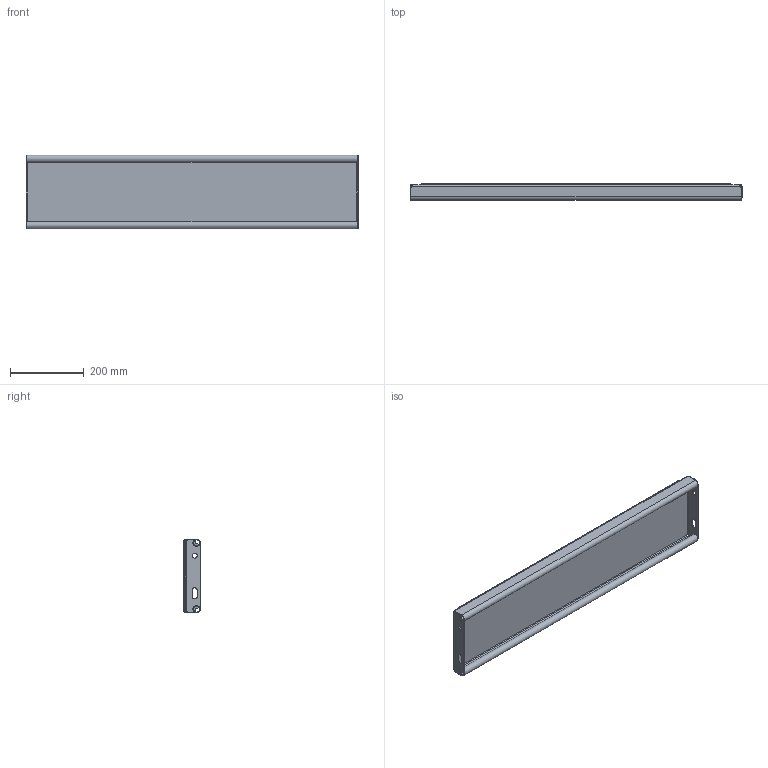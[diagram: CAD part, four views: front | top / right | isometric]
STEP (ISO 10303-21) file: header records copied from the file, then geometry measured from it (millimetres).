
FILE_DESCRIPTION (( 'STEP AP214' ), '1' );
FILE_NAME ('OPTIMO-Tread-Achil-O2-900x200x45x2-st240-F100160100-plain.STEP', '2021-03-15T10:26:46', ( '' ), ( '' ), 'SwSTEP 2.0', 'SolidWorks 2021', '' );
FILE_SCHEMA (( 'AUTOMOTIVE_DESIGN' ));
Length unit declared in the file: millimetre
Products named in the file (1): OPTIMO-Tread-Achil-O2-900x200x45x2-st240-F100160100-plain
Bounding box: 900 x 45 x 200 mm (x, y, z)
Volume: 1148580.3 mm3; surface area: 676985.6 mm2
Topology: 1 solids, 1 shells, 248 faces, 640 edges, 412 vertices
Faces by surface type: plane 173, bspline 39, cylinder 36
Entity records: 9924 total; most frequent: CARTESIAN_POINT 4092, ORIENTED_EDGE 1280, DIRECTION 1022, EDGE_CURVE 640, VECTOR 490, LINE 490, VERTEX_POINT 412, EDGE_LOOP 274
